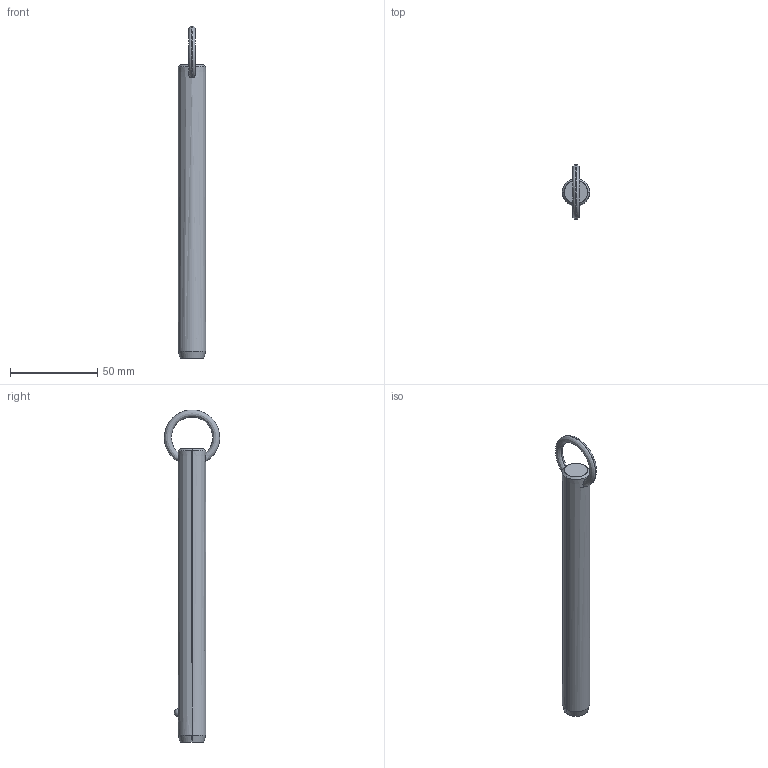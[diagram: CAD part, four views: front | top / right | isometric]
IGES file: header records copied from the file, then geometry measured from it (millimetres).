
Start section: SolidWorks IGES file using analytic representation for surfaces
Global section: file name: C:\Users\liam_\OneDrive\Documents\WORK\Work for WixRoyd\Job Files\J-00019 - Matt Davis CAD Checking\04. CAD Drawings\automotion20190605\P1250.2_v2\P1250.2_v2_20190729_IGES\P1250.062-550.igs; native system: SolidWorks 2017; preprocessor: SolidWorks 2017; author: liam_; date: 190729.234024; units: millimetre
Bounding box: 15.8 x 31.68 x 190.4 mm (x, y, z)
Surface area: 9522.8 mm2 (no closed solid volume)
Topology: 0 solids, 0 shells, 12 faces, 292 edges, 290 vertices
Faces by surface type: revolution 8, bspline 4
